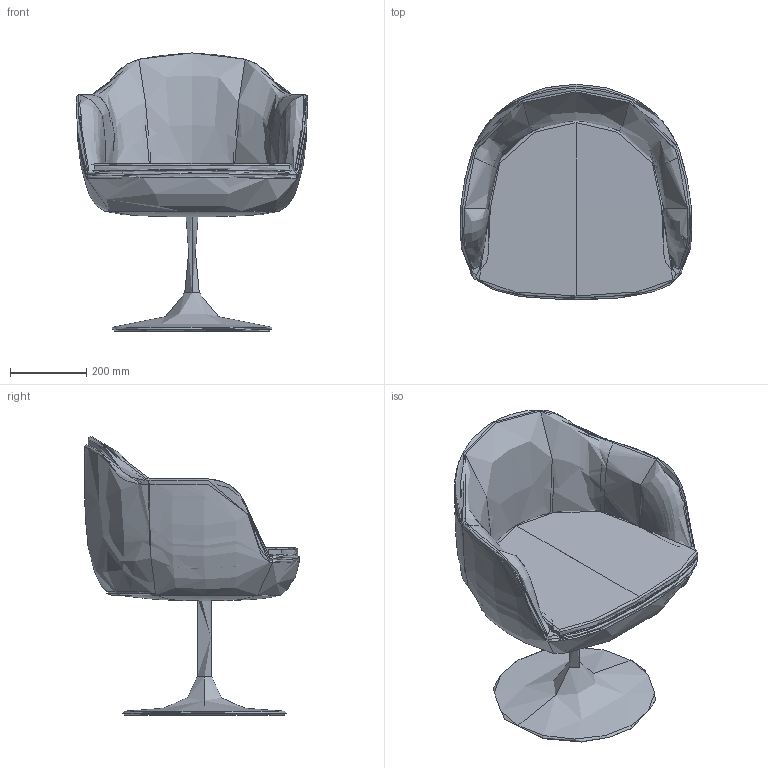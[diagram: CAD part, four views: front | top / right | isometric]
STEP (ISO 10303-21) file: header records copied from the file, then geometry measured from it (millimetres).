
FILE_DESCRIPTION(/* description */ (''),/* implementation_level */ '2;1');
FILE_NAME(/* name */ 'KINOSH~2',/* time_stamp */ '2023-04-18T20:09:44+09:00',/* author */ (''),/* organization */ (''),/* preprocessor_version */ 'ST-DEVELOPER v16.5',/* originating_system */ '',/* authorisation */ '');
FILE_SCHEMA (('AUTOMOTIVE_DESIGN'));
Length unit declared in the file: millimetre
Products named in the file (1): Document
Bounding box: 606.93 x 564.73 x 730 mm (x, y, z)
Volume: 12622675.1 mm3; surface area: 3460869.9 mm2
Topology: 3 solids, 5 shells, 149 faces, 438 edges, 243 vertices
Faces by surface type: bspline 144, plane 5
Entity records: 38529 total; most frequent: CARTESIAN_POINT 36272, ORIENTED_EDGE 762, EDGE_CURVE 418, B_SPLINE_CURVE_WITH_KNOTS 272, VERTEX_POINT 243, ADVANCED_FACE 149, FACE_OUTER_BOUND 149, EDGE_LOOP 149
